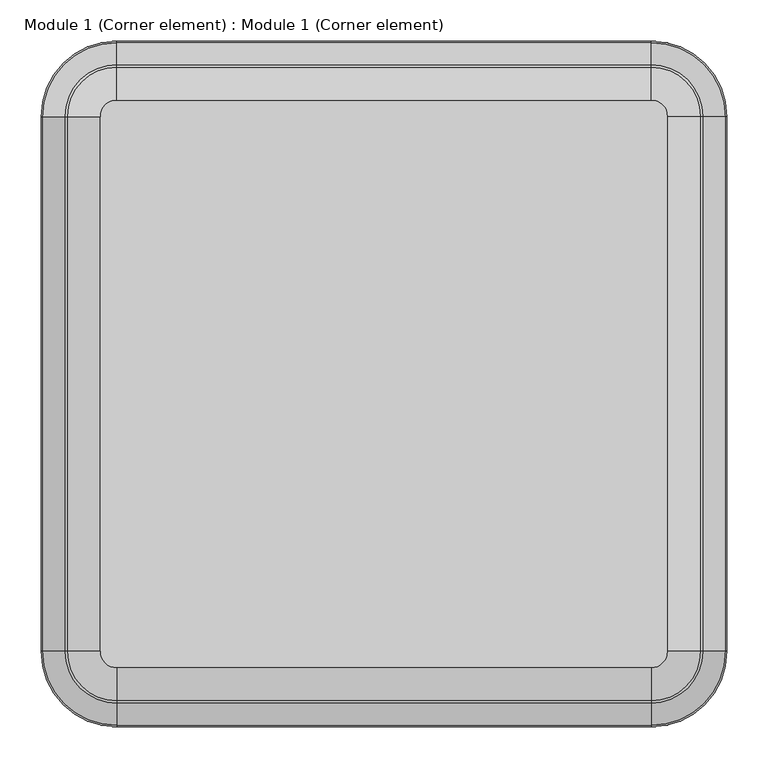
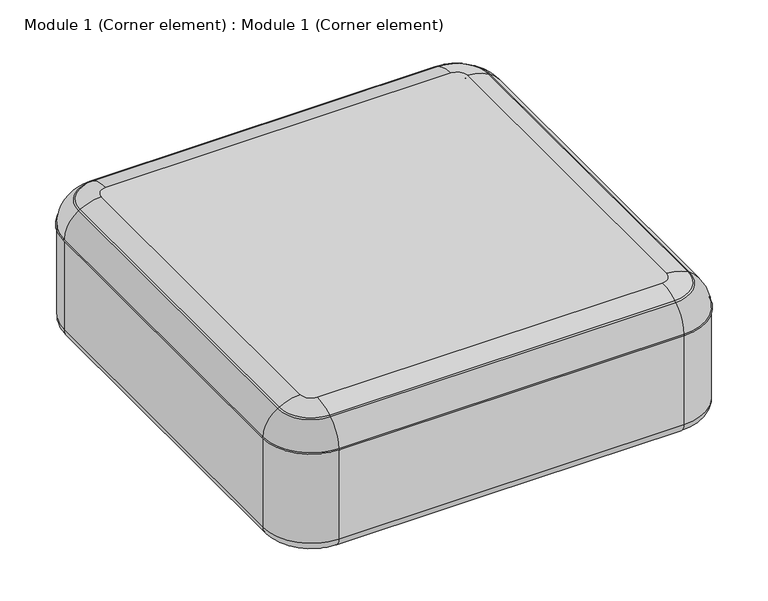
"""IFC4 building model written with IfcOpenShell, lengths in millimetres: furniture geometry, Module 1 (Corner element) : Module 1 (Corner element)."""

from ifc_helpers import new_model, si_unit, point, frame, origin, place, context, project, spatial, polyline, circle_curve, ellipse_curve, trimmed, source, transform, mapped, element, save
from ifc_brep_helpers import plane_surface, cylinder_surface, revolved_surface, advanced_brep


def module_1_corner_element_module_1_corner_element_61d61d8e(model_context):
    return source(origin(), model_context, "Body", "AdvancedBrep", [
        advanced_brep(
        [(90.0, -930.0, 190.0), (0.0, -840.0, 190.0), (20.0, -840.0, 170.0), (90.0, -910.0, 170.0), (90.0, -930.0, 369.0816596), (0.0, -840.0, 369.0816596), (90.0, -903.0932178, 417.1277728), (26.9067822, -840.0, 417.1277728), (0.0043962, -840.0, 370.2686252), (90.0, -929.9956038, 370.2686252), (90.0, -900.2270188, 418.8499589), (29.7729812, -840.0, 418.8499589), (90.0, -860.0212696, 430.0), (69.9787304, -840.0, 430.0), (740.0, -910.0, 170.0), (740.0, -930.0, 190.0), (740.0, -930.0, 369.0816596), (740.0, -929.9956038, 370.2686252), (740.0, -903.0932178, 417.1277728), (740.0, -900.2270188, 418.8499589), (740.0, -860.0212696, 430.0), (810.0, -840.0, 170.0), (830.0, -840.0, 190.0), (830.0, -840.0, 369.0816596), (829.9956038, -840.0, 370.2686252), (803.0932178, -840.0, 417.1277728), (800.2270188, -840.0, 418.8499589), (760.0212696, -840.0, 430.0), (810.0, -190.0, 170.0), (830.0, -190.0, 190.0), (830.0, -190.0, 369.0816596), (829.9956038, -190.0, 370.2686252), (803.0932178, -190.0, 417.1277728), (800.2270188, -190.0, 418.8499589), (760.0212696, -190.0, 430.0), (740.0, -120.0, 170.0), (740.0, -100.0, 190.0), (740.0, -100.0, 369.0816596), (740.0, -100.0043962, 370.2686252), (740.0, -126.9067822, 417.1277728), (740.0, -129.7729812, 418.8499589), (740.0, -169.9787304, 430.0), (90.0, -120.0, 170.0), (90.0, -100.0, 190.0), (90.0, -100.0, 369.0816596), (90.0, -100.0043962, 370.2686252), (90.0, -126.9067822, 417.1277728), (90.0, -129.7729812, 418.8499589), (90.0, -169.9787304, 430.0), (20.0, -190.0, 170.0), (0.0, -190.0, 190.0), (0.0, -190.0, 369.0816596), (0.0043962, -190.0, 370.2686252), (26.9067822, -190.0, 417.1277728), (29.7729812, -190.0, 418.8499589), (69.9787304, -190.0, 430.0)],
        [
            (0, 1, circle_curve(frame((90.0, -840.0, 190.0), z_axis=(0.0, 0.0, -1.0), x_axis=(-1.0, 0.0, 0.0)), 90.0)),
            (1, 2, circle_curve(frame((20.0, -840.0, 190.0), z_axis=(0.0, -1.0, 0.0), x_axis=(1.0, 0.0, 0.0)), 20.0)),
            (2, 3, circle_curve(frame((90.0, -840.0, 170.0), z_axis=(0.0, 0.0, 1.0), x_axis=(-1.0, 0.0, 0.0)), 70.0)),
            (3, 0, circle_curve(frame((90.0, -910.0, 190.0), z_axis=(-1.0, 0.0, 0.0), x_axis=(0.0, 1.0, 0.0)), 20.0)),
            (0, 4),
            (4, 5, circle_curve(frame((90.0, -840.0, 369.0816596), z_axis=(0.0, 0.0, -1.0), x_axis=(-1.0, 0.0, 0.0)), 90.0)),
            (5, 1),
            (6, 7, circle_curve(frame((90.0, -840.0, 417.1277728), z_axis=(0.0, 0.0, -1.0), x_axis=(-1.0, 0.0, 0.0)), 63.0932178)),
            (7, 8, circle_curve(frame((55.482257, -840.0, 369.5701963), z_axis=(0.0, -1.0, 0.0), x_axis=(1.0, 0.0, 0.0)), 55.482257)),
            (8, 9, circle_curve(frame((90.0, -840.0, 370.2686252), z_axis=(0.0, 0.0, 1.0), x_axis=(-1.0, 0.0, 0.0)), 89.9956038)),
            (9, 6, circle_curve(frame((90.0, -874.517743, 369.5701963), z_axis=(-1.0, 0.0, 0.0), x_axis=(0.0, 1.0, 0.0)), 55.482257)),
            (6, 10),
            (10, 11, circle_curve(frame((90.0, -840.0, 418.8499589), z_axis=(0.0, 0.0, -1.0), x_axis=(-1.0, 0.0, 0.0)), 60.2270188)),
            (11, 7),
            (10, 12, circle_curve(frame((90.0, -860.0212696, 351.9363554), z_axis=(-1.0, 0.0, 0.0), x_axis=(0.0, 1.0, 0.0)), 78.0636446)),
            (12, 13, circle_curve(frame((90.0, -840.0, 430.0), z_axis=(0.0, 0.0, -1.0), x_axis=(-1.0, 0.0, 0.0)), 20.0212696)),
            (13, 11, circle_curve(frame((69.9787304, -840.0, 351.9363554), z_axis=(0.0, -1.0, 0.0), x_axis=(1.0, 0.0, 0.0)), 78.0636446)),
            (3, 14),
            (14, 15, circle_curve(frame((740.0, -910.0, 190.0), z_axis=(-1.0, 0.0, 0.0), x_axis=(0.0, 1.0, 0.0)), 20.0)),
            (15, 0),
            (15, 16),
            (16, 4),
            (9, 17),
            (17, 18, circle_curve(frame((740.0, -874.517743, 369.5701963), z_axis=(-1.0, 0.0, 0.0), x_axis=(0.0, 1.0, 0.0)), 55.482257)),
            (18, 6),
            (18, 19),
            (19, 10),
            (19, 20, circle_curve(frame((740.0, -860.0212696, 351.9363554), z_axis=(-1.0, 0.0, 0.0), x_axis=(0.0, 1.0, 0.0)), 78.0636446)),
            (20, 12),
            (14, 21, circle_curve(frame((740.0, -840.0, 170.0), z_axis=(0.0, 0.0, 1.0), x_axis=(0.0, -1.0, 0.0)), 70.0)),
            (21, 22, circle_curve(frame((810.0, -840.0, 190.0), z_axis=(0.0, -1.0, 0.0), x_axis=(-1.0, 0.0, 0.0)), 20.0)),
            (22, 15, circle_curve(frame((740.0, -840.0, 190.0), z_axis=(0.0, 0.0, -1.0), x_axis=(0.0, -1.0, 0.0)), 90.0)),
            (22, 23),
            (23, 16, circle_curve(frame((740.0, -840.0, 369.0816596), z_axis=(0.0, 0.0, -1.0), x_axis=(0.0, -1.0, 0.0)), 90.0)),
            (17, 24, circle_curve(frame((740.0, -840.0, 370.2686252), z_axis=(0.0, 0.0, 1.0), x_axis=(0.0, -1.0, 0.0)), 89.9956038)),
            (24, 25, circle_curve(frame((774.517743, -840.0, 369.5701963), z_axis=(0.0, -1.0, 0.0), x_axis=(-1.0, 0.0, 0.0)), 55.482257)),
            (25, 18, circle_curve(frame((740.0, -840.0, 417.1277728), z_axis=(0.0, 0.0, -1.0), x_axis=(0.0, -1.0, 0.0)), 63.0932178)),
            (25, 26),
            (26, 19, circle_curve(frame((740.0, -840.0, 418.8499589), z_axis=(0.0, 0.0, -1.0), x_axis=(0.0, -1.0, 0.0)), 60.2270188)),
            (26, 27, circle_curve(frame((760.0212696, -840.0, 351.9363554), z_axis=(0.0, -1.0, 0.0), x_axis=(-1.0, 0.0, 0.0)), 78.0636446)),
            (27, 20, circle_curve(frame((740.0, -840.0, 430.0), z_axis=(0.0, 0.0, -1.0), x_axis=(0.0, -1.0, 0.0)), 20.0212696)),
            (21, 28),
            (28, 29, circle_curve(frame((810.0, -190.0, 190.0), z_axis=(0.0, -1.0, 0.0), x_axis=(-1.0, 0.0, 0.0)), 20.0)),
            (29, 22),
            (29, 30),
            (30, 23),
            (24, 31),
            (31, 32, circle_curve(frame((774.517743, -190.0, 369.5701963), z_axis=(0.0, -1.0, 0.0), x_axis=(-1.0, 0.0, 0.0)), 55.482257)),
            (32, 25),
            (32, 33),
            (33, 26),
            (33, 34, circle_curve(frame((760.0212696, -190.0, 351.9363554), z_axis=(0.0, -1.0, 0.0), x_axis=(-1.0, 0.0, 0.0)), 78.0636446)),
            (34, 27),
            (28, 35, circle_curve(frame((740.0, -190.0, 170.0), z_axis=(0.0, 0.0, 1.0), x_axis=(1.0, 0.0, 0.0)), 70.0)),
            (35, 36, circle_curve(frame((740.0, -120.0, 190.0), z_axis=(1.0, 0.0, 0.0), x_axis=(0.0, -1.0, 0.0)), 20.0)),
            (36, 29, circle_curve(frame((740.0, -190.0, 190.0), z_axis=(0.0, 0.0, -1.0), x_axis=(1.0, 0.0, 0.0)), 90.0)),
            (36, 37),
            (37, 30, circle_curve(frame((740.0, -190.0, 369.0816596), z_axis=(0.0, 0.0, -1.0), x_axis=(1.0, 0.0, 0.0)), 90.0)),
            (31, 38, circle_curve(frame((740.0, -190.0, 370.2686252), z_axis=(0.0, 0.0, 1.0), x_axis=(1.0, 0.0, 0.0)), 89.9956038)),
            (38, 39, circle_curve(frame((740.0, -155.482257, 369.5701963), z_axis=(1.0, 0.0, 0.0), x_axis=(0.0, -1.0, 0.0)), 55.482257)),
            (39, 32, circle_curve(frame((740.0, -190.0, 417.1277728), z_axis=(0.0, 0.0, -1.0), x_axis=(1.0, 0.0, 0.0)), 63.0932178)),
            (39, 40),
            (40, 33, circle_curve(frame((740.0, -190.0, 418.8499589), z_axis=(0.0, 0.0, -1.0), x_axis=(1.0, 0.0, 0.0)), 60.2270188)),
            (40, 41, circle_curve(frame((740.0, -169.9787304, 351.9363554), z_axis=(1.0, 0.0, 0.0), x_axis=(0.0, -1.0, 0.0)), 78.0636446)),
            (41, 34, circle_curve(frame((740.0, -190.0, 430.0), z_axis=(0.0, 0.0, -1.0), x_axis=(1.0, 0.0, 0.0)), 20.0212696)),
            (35, 42),
            (42, 43, circle_curve(frame((90.0, -120.0, 190.0), z_axis=(1.0, 0.0, 0.0), x_axis=(0.0, -1.0, 0.0)), 20.0)),
            (43, 36),
            (43, 44),
            (44, 37),
            (38, 45),
            (45, 46, circle_curve(frame((90.0, -155.482257, 369.5701963), z_axis=(1.0, 0.0, 0.0), x_axis=(0.0, -1.0, 0.0)), 55.482257)),
            (46, 39),
            (46, 47),
            (47, 40),
            (47, 48, circle_curve(frame((90.0, -169.9787304, 351.9363554), z_axis=(1.0, 0.0, 0.0), x_axis=(0.0, -1.0, 0.0)), 78.0636446)),
            (48, 41),
            (42, 49, circle_curve(frame((90.0, -190.0, 170.0), z_axis=(0.0, 0.0, 1.0), x_axis=(0.0, 1.0, 0.0)), 70.0)),
            (49, 50, circle_curve(frame((20.0, -190.0, 190.0), z_axis=(0.0, 1.0, 0.0), x_axis=(1.0, 0.0, 0.0)), 20.0)),
            (50, 43, circle_curve(frame((90.0, -190.0, 190.0), z_axis=(0.0, 0.0, -1.0), x_axis=(0.0, 1.0, 0.0)), 90.0)),
            (50, 51),
            (51, 44, circle_curve(frame((90.0, -190.0, 369.0816596), z_axis=(0.0, 0.0, -1.0), x_axis=(0.0, 1.0, 0.0)), 90.0)),
            (45, 52, circle_curve(frame((90.0, -190.0, 370.2686252), z_axis=(0.0, 0.0, 1.0), x_axis=(0.0, 1.0, 0.0)), 89.9956038)),
            (52, 53, circle_curve(frame((55.482257, -190.0, 369.5701963), z_axis=(0.0, 1.0, 0.0), x_axis=(1.0, 0.0, 0.0)), 55.482257)),
            (53, 46, circle_curve(frame((90.0, -190.0, 417.1277728), z_axis=(0.0, 0.0, -1.0), x_axis=(0.0, 1.0, 0.0)), 63.0932178)),
            (53, 54),
            (54, 47, circle_curve(frame((90.0, -190.0, 418.8499589), z_axis=(0.0, 0.0, -1.0), x_axis=(0.0, 1.0, 0.0)), 60.2270188)),
            (54, 55, circle_curve(frame((69.9787304, -190.0, 351.9363554), z_axis=(0.0, 1.0, 0.0), x_axis=(1.0, 0.0, 0.0)), 78.0636446)),
            (55, 48, circle_curve(frame((90.0, -190.0, 430.0), z_axis=(0.0, 0.0, -1.0), x_axis=(0.0, 1.0, 0.0)), 20.0212696)),
            (55, 13),
            (2, 49),
            (1, 50),
            (5, 51),
            (7, 53),
            (52, 8),
            (11, 54),
            (4, 9, circle_curve(frame((90.0, -930.8026401, 369.6781233), z_axis=(-1.0, 0.0, 0.0), x_axis=(0.0, 1.0, 0.0)), 1.0)),
            (8, 5, circle_curve(frame((-0.8026401, -840.0, 369.6781233), z_axis=(0.0, -1.0, 0.0), x_axis=(1.0, 0.0, 0.0)), 1.0)),
            (16, 17, circle_curve(frame((740.0, -930.8026401, 369.6781233), z_axis=(-1.0, 0.0, 0.0), x_axis=(0.0, 1.0, 0.0)), 1.0)),
            (23, 24, circle_curve(frame((830.8026401, -840.0, 369.6781233), z_axis=(0.0, -1.0, 0.0), x_axis=(-1.0, 0.0, 0.0)), 1.0)),
            (30, 31, circle_curve(frame((830.8026401, -190.0, 369.6781233), z_axis=(0.0, -1.0, 0.0), x_axis=(-1.0, 0.0, 0.0)), 1.0)),
            (37, 38, circle_curve(frame((740.0, -99.1973599, 369.6781233), z_axis=(1.0, 0.0, 0.0), x_axis=(0.0, -1.0, 0.0)), 1.0)),
            (44, 45, circle_curve(frame((90.0, -99.1973599, 369.6781233), z_axis=(1.0, 0.0, 0.0), x_axis=(0.0, -1.0, 0.0)), 1.0)),
            (51, 52, circle_curve(frame((-0.8026401, -190.0, 369.6781233), z_axis=(0.0, 1.0, 0.0), x_axis=(1.0, 0.0, 0.0)), 1.0)),
        ],
        [
            revolved_surface(trimmed(ellipse_curve(frame((20.0, -840.0, 190.0), z_axis=(0.0, 1.0, 0.0), x_axis=(1.0, 0.0, 0.0)), 20.0, 20.0), [point((20.0, -840.0, 170.0))], [point((0.0, -840.0, 190.0))], True, "CARTESIAN"), (90.0, -840.0, 430.0), (0.0, 0.0, 1.0)),
            cylinder_surface(frame((90.0, -840.0, 430.0), z_axis=(0.0, 0.0, 1.0), x_axis=(-1.0, 0.0, 0.0)), 90.0),
            revolved_surface(trimmed(ellipse_curve(frame((55.482257, -840.0, 369.5701963), z_axis=(0.0, 1.0, 0.0), x_axis=(1.0, 0.0, 0.0)), 55.482257, 55.482257), [point((0.0043962, -840.0, 370.2686252))], [point((26.9067822, -840.0, 417.1277728))], True, "CARTESIAN"), (90.0, -840.0, 430.0), (0.0, 0.0, 1.0)),
            revolved_surface(polyline([(26.9067822, -840.0, 417.1277728), (29.7729812, -840.0, 418.8499589)]), (90.0, -840.0, 430.0), (0.0, 0.0, 1.0)),
            revolved_surface(trimmed(ellipse_curve(frame((69.9787304, -840.0, 351.9363554), z_axis=(0.0, 1.0, 0.0), x_axis=(1.0, 0.0, 0.0)), 78.0636446, 78.0636446), [point((29.7729812, -840.0, 418.8499589))], [point((69.9787304, -840.0, 430.0))], True, "CARTESIAN"), (90.0, -840.0, 430.0), (0.0, 0.0, 1.0)),
            cylinder_surface(frame((90.0, -910.0, 190.0), z_axis=(-1.0, 0.0, 0.0), x_axis=(0.0, 1.0, 0.0)), 20.0),
            plane_surface(frame((90.0, -930.0, 190.0), z_axis=(0.0, -1.0, 0.0), x_axis=(1.0, 0.0, 0.0))),
            cylinder_surface(frame((90.0, -874.517743, 369.5701963), z_axis=(-1.0, 0.0, 0.0), x_axis=(0.0, 1.0, 0.0)), 55.482257),
            plane_surface(frame((90.0, -903.0932178, 417.1277728), z_axis=(0.0, -0.5150380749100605, 0.8571673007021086), x_axis=(1.0, 0.0, 0.0))),
            cylinder_surface(frame((90.0, -860.0212696, 351.9363554), z_axis=(-1.0, 0.0, 0.0), x_axis=(0.0, 1.0, 0.0)), 78.0636446),
            revolved_surface(trimmed(ellipse_curve(frame((740.0, -910.0, 190.0), z_axis=(-1.0, 0.0, 0.0), x_axis=(0.0, 1.0, 0.0)), 20.0, 20.0), [point((740.0, -910.0, 170.0))], [point((740.0, -930.0, 190.0))], True, "CARTESIAN"), (740.0, -840.0, 430.0), (0.0, 0.0, 1.0)),
            cylinder_surface(frame((740.0, -840.0, 430.0), z_axis=(0.0, 0.0, 1.0), x_axis=(0.0, -1.0, 0.0)), 90.0),
            revolved_surface(trimmed(ellipse_curve(frame((740.0, -874.517743, 369.5701963), z_axis=(-1.0, 0.0, 0.0), x_axis=(0.0, 1.0, 0.0)), 55.482257, 55.482257), [point((740.0, -929.9956038, 370.2686252))], [point((740.0, -903.0932178, 417.1277728))], True, "CARTESIAN"), (740.0, -840.0, 430.0), (0.0, 0.0, 1.0)),
            revolved_surface(polyline([(740.0, -903.0932178, 417.1277728), (740.0, -900.2270188, 418.8499589)]), (740.0, -840.0, 430.0), (0.0, 0.0, 1.0)),
            revolved_surface(trimmed(ellipse_curve(frame((740.0, -860.0212696, 351.9363554), z_axis=(-1.0, 0.0, 0.0), x_axis=(0.0, 1.0, 0.0)), 78.0636446, 78.0636446), [point((740.0, -900.2270188, 418.8499589))], [point((740.0, -860.0212696, 430.0))], True, "CARTESIAN"), (740.0, -840.0, 430.0), (0.0, 0.0, 1.0)),
            cylinder_surface(frame((810.0, -840.0, 190.0), z_axis=(0.0, -1.0, 0.0), x_axis=(-1.0, 0.0, 0.0)), 20.0),
            plane_surface(frame((830.0, -840.0, 190.0), z_axis=(1.0, 0.0, 0.0), x_axis=(0.0, 1.0, 0.0))),
            cylinder_surface(frame((774.517743, -840.0, 369.5701963), z_axis=(0.0, -1.0, 0.0), x_axis=(-1.0, 0.0, 0.0)), 55.482257),
            plane_surface(frame((803.0932178, -840.0, 417.1277728), z_axis=(0.5150380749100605, 0.0, 0.8571673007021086), x_axis=(0.0, 1.0, 0.0))),
            cylinder_surface(frame((760.0212696, -840.0, 351.9363554), z_axis=(0.0, -1.0, 0.0), x_axis=(-1.0, 0.0, 0.0)), 78.0636446),
            revolved_surface(trimmed(ellipse_curve(frame((810.0, -190.0, 190.0), z_axis=(0.0, -1.0, 0.0), x_axis=(-1.0, 0.0, 0.0)), 20.0, 20.0), [point((810.0, -190.0, 170.0))], [point((830.0, -190.0, 190.0))], True, "CARTESIAN"), (740.0, -190.0, 430.0), (0.0, 0.0, 1.0)),
            cylinder_surface(frame((740.0, -190.0, 430.0), z_axis=(0.0, 0.0, 1.0), x_axis=(1.0, 0.0, 0.0)), 90.0),
            revolved_surface(trimmed(ellipse_curve(frame((774.517743, -190.0, 369.5701963), z_axis=(0.0, -1.0, 0.0), x_axis=(-1.0, 0.0, 0.0)), 55.482257, 55.482257), [point((829.9956038, -190.0, 370.2686252))], [point((803.0932178, -190.0, 417.1277728))], True, "CARTESIAN"), (740.0, -190.0, 430.0), (0.0, 0.0, 1.0)),
            revolved_surface(polyline([(803.0932178, -190.0, 417.1277728), (800.2270188, -190.0, 418.8499589)]), (740.0, -190.0, 430.0), (0.0, 0.0, 1.0)),
            revolved_surface(trimmed(ellipse_curve(frame((760.0212696, -190.0, 351.9363554), z_axis=(0.0, -1.0, 0.0), x_axis=(-1.0, 0.0, 0.0)), 78.0636446, 78.0636446), [point((800.2270188, -190.0, 418.8499589))], [point((760.0212696, -190.0, 430.0))], True, "CARTESIAN"), (740.0, -190.0, 430.0), (0.0, 0.0, 1.0)),
            cylinder_surface(frame((740.0, -120.0, 190.0), z_axis=(1.0, 0.0, 0.0), x_axis=(0.0, -1.0, 0.0)), 20.0),
            plane_surface(frame((740.0, -100.0, 190.0), z_axis=(0.0, 1.0, 0.0), x_axis=(-1.0, 0.0, 0.0))),
            cylinder_surface(frame((740.0, -155.482257, 369.5701963), z_axis=(1.0, 0.0, 0.0), x_axis=(0.0, -1.0, 0.0)), 55.482257),
            plane_surface(frame((740.0, -126.9067822, 417.1277728), z_axis=(0.0, 0.5150380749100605, 0.8571673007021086), x_axis=(-1.0, 0.0, 0.0))),
            cylinder_surface(frame((740.0, -169.9787304, 351.9363554), z_axis=(1.0, 0.0, 0.0), x_axis=(0.0, -1.0, 0.0)), 78.0636446),
            revolved_surface(trimmed(ellipse_curve(frame((90.0, -120.0, 190.0), z_axis=(1.0, 0.0, 0.0), x_axis=(0.0, -1.0, 0.0)), 20.0, 20.0), [point((90.0, -120.0, 170.0))], [point((90.0, -100.0, 190.0))], True, "CARTESIAN"), (90.0, -190.0, 430.0), (0.0, 0.0, 1.0)),
            cylinder_surface(frame((90.0, -190.0, 430.0), z_axis=(0.0, 0.0, 1.0), x_axis=(0.0, 1.0, 0.0)), 90.0),
            revolved_surface(trimmed(ellipse_curve(frame((90.0, -155.482257, 369.5701963), z_axis=(1.0, 0.0, 0.0), x_axis=(0.0, -1.0, 0.0)), 55.482257, 55.482257), [point((90.0, -100.0043962, 370.2686252))], [point((90.0, -126.9067822, 417.1277728))], True, "CARTESIAN"), (90.0, -190.0, 430.0), (0.0, 0.0, 1.0)),
            revolved_surface(polyline([(90.0, -126.9067822, 417.1277728), (90.0, -129.7729812, 418.8499589)]), (90.0, -190.0, 430.0), (0.0, 0.0, 1.0)),
            revolved_surface(trimmed(ellipse_curve(frame((90.0, -169.9787304, 351.9363554), z_axis=(1.0, 0.0, 0.0), x_axis=(0.0, -1.0, 0.0)), 78.0636446, 78.0636446), [point((90.0, -129.7729812, 418.8499589))], [point((90.0, -169.9787304, 430.0))], True, "CARTESIAN"), (90.0, -190.0, 430.0), (0.0, 0.0, 1.0)),
            plane_surface(frame((69.9787304, -190.0, 430.0), z_axis=(0.0, 0.0, 1.0), x_axis=(0.0, -1.0, 0.0))),
            plane_surface(frame((80.0, -190.0, 170.0), z_axis=(0.0, 0.0, -1.0), x_axis=(0.0, -1.0, 0.0))),
            cylinder_surface(frame((20.0, -190.0, 190.0), z_axis=(0.0, 1.0, 0.0), x_axis=(1.0, 0.0, 0.0)), 20.0),
            plane_surface(frame((0.0, -190.0, 190.0), z_axis=(-1.0, 0.0, 0.0), x_axis=(0.0, -1.0, 0.0))),
            cylinder_surface(frame((55.482257, -190.0, 369.5701963), z_axis=(0.0, 1.0, 0.0), x_axis=(1.0, 0.0, 0.0)), 55.482257),
            plane_surface(frame((26.9067822, -190.0, 417.1277728), z_axis=(-0.5150380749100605, 0.0, 0.8571673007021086), x_axis=(0.0, -1.0, 0.0))),
            cylinder_surface(frame((69.9787304, -190.0, 351.9363554), z_axis=(0.0, 1.0, 0.0), x_axis=(1.0, 0.0, 0.0)), 78.0636446),
            revolved_surface(trimmed(ellipse_curve(frame((-0.8026401, -840.0, 369.6781233), z_axis=(0.0, 1.0, 0.0), x_axis=(1.0, 0.0, 0.0)), 1.0, 1.0), [point((0.0, -840.0, 369.0816596))], [point((0.0043962, -840.0, 370.2686252))], True, "CARTESIAN"), (90.0, -840.0, 430.0), (0.0, 0.0, 1.0)),
            cylinder_surface(frame((90.0, -930.8026401, 369.6781233), z_axis=(-1.0, 0.0, 0.0), x_axis=(0.0, 1.0, 0.0)), 1.0),
            revolved_surface(trimmed(ellipse_curve(frame((740.0, -930.8026401, 369.6781233), z_axis=(-1.0, 0.0, 0.0), x_axis=(0.0, 1.0, 0.0)), 1.0, 1.0), [point((740.0, -930.0, 369.0816596))], [point((740.0, -929.9956038, 370.2686252))], True, "CARTESIAN"), (740.0, -840.0, 430.0), (0.0, 0.0, 1.0)),
            cylinder_surface(frame((830.8026401, -840.0, 369.6781233), z_axis=(0.0, -1.0, 0.0), x_axis=(-1.0, 0.0, 0.0)), 1.0),
            revolved_surface(trimmed(ellipse_curve(frame((830.8026401, -190.0, 369.6781233), z_axis=(0.0, -1.0, 0.0), x_axis=(-1.0, 0.0, 0.0)), 1.0, 1.0), [point((830.0, -190.0, 369.0816596))], [point((829.9956038, -190.0, 370.2686252))], True, "CARTESIAN"), (740.0, -190.0, 430.0), (0.0, 0.0, 1.0)),
            cylinder_surface(frame((740.0, -99.1973599, 369.6781233), z_axis=(1.0, 0.0, 0.0), x_axis=(0.0, -1.0, 0.0)), 1.0),
            revolved_surface(trimmed(ellipse_curve(frame((90.0, -99.1973599, 369.6781233), z_axis=(1.0, 0.0, 0.0), x_axis=(0.0, -1.0, 0.0)), 1.0, 1.0), [point((90.0, -100.0, 369.0816596))], [point((90.0, -100.0043962, 370.2686252))], True, "CARTESIAN"), (90.0, -190.0, 430.0), (0.0, 0.0, 1.0)),
            cylinder_surface(frame((-0.8026401, -190.0, 369.6781233), z_axis=(0.0, 1.0, 0.0), x_axis=(1.0, 0.0, 0.0)), 1.0),
        ],
        [
            (0, [[1, 2, 3, 4]]),
            (1, [[-1, 5, 6, 7]]),
            (2, [[8, 9, 10, 11]]),
            (3, [[-8, 12, 13, 14]]),
            (4, [[-13, 15, 16, 17]]),
            (5, [[-4, 18, 19, 20]]),
            (6, [[-5, -20, 21, 22]]),
            (7, [[-11, 23, 24, 25]]),
            (8, [[-12, -25, 26, 27]]),
            (9, [[-15, -27, 28, 29]]),
            (10, [[-19, 30, 31, 32]]),
            (11, [[-21, -32, 33, 34]]),
            (12, [[-24, 35, 36, 37]]),
            (13, [[-26, -37, 38, 39]]),
            (14, [[-28, -39, 40, 41]]),
            (15, [[-31, 42, 43, 44]]),
            (16, [[-33, -44, 45, 46]]),
            (17, [[-36, 47, 48, 49]]),
            (18, [[-38, -49, 50, 51]]),
            (19, [[-40, -51, 52, 53]]),
            (20, [[-43, 54, 55, 56]]),
            (21, [[-45, -56, 57, 58]]),
            (22, [[-48, 59, 60, 61]]),
            (23, [[-50, -61, 62, 63]]),
            (24, [[-52, -63, 64, 65]]),
            (25, [[-55, 66, 67, 68]]),
            (26, [[-57, -68, 69, 70]]),
            (27, [[-60, 71, 72, 73]]),
            (28, [[-62, -73, 74, 75]]),
            (29, [[-64, -75, 76, 77]]),
            (30, [[-67, 78, 79, 80]]),
            (31, [[-69, -80, 81, 82]]),
            (32, [[-72, 83, 84, 85]]),
            (33, [[-74, -85, 86, 87]]),
            (34, [[-76, -87, 88, 89]]),
            (35, [[-16, -29, -41, -53, -65, -77, -89, 90]]),
            (36, [[-3, 91, -78, -66, -54, -42, -30, -18]]),
            (37, [[-2, 92, -79, -91]]),
            (38, [[-7, 93, -81, -92]]),
            (39, [[-9, 94, -84, 95]]),
            (40, [[-14, 96, -86, -94]]),
            (41, [[-17, -90, -88, -96]]),
            (42, [[-6, 97, -10, 98]]),
            (43, [[-22, 99, -23, -97]]),
            (44, [[-34, 100, -35, -99]]),
            (45, [[-46, 101, -47, -100]]),
            (46, [[-58, 102, -59, -101]]),
            (47, [[-70, 103, -71, -102]]),
            (48, [[-82, 104, -83, -103]]),
            (49, [[-93, -98, -95, -104]]),
        ],
    ),
    ])


if __name__ == "__main__":
    model = new_model("IFC4")
    model_context = context("Model", 3, world=origin())
    ifc_project = project(units=[si_unit("LENGTHUNIT", "METRE", prefix="MILLI")], contexts=[model_context])
    site = spatial("IfcSite", under=ifc_project)
    building = spatial("IfcBuilding", under=site)
    placement = place(None, origin())
    module_1_corner_element_module_1_corner_element_shape = module_1_corner_element_module_1_corner_element_61d61d8e(model_context)
    element("IfcFurniture", 1, ObjectType="Module 1 (Corner element) : Module 1 (Corner element)", at=placement, inside=building, context=model_context, shape_type="MappedRepresentation", body=[
        mapped(module_1_corner_element_module_1_corner_element_shape, transform((0.0, 0.0, 0.0), x_axis=(1.0, 0.0, 0.0), y_axis=(0.0, 1.0, 0.0), z_axis=(0.0, 0.0, 1.0))),
    ])
    save(model, "model.ifc")
